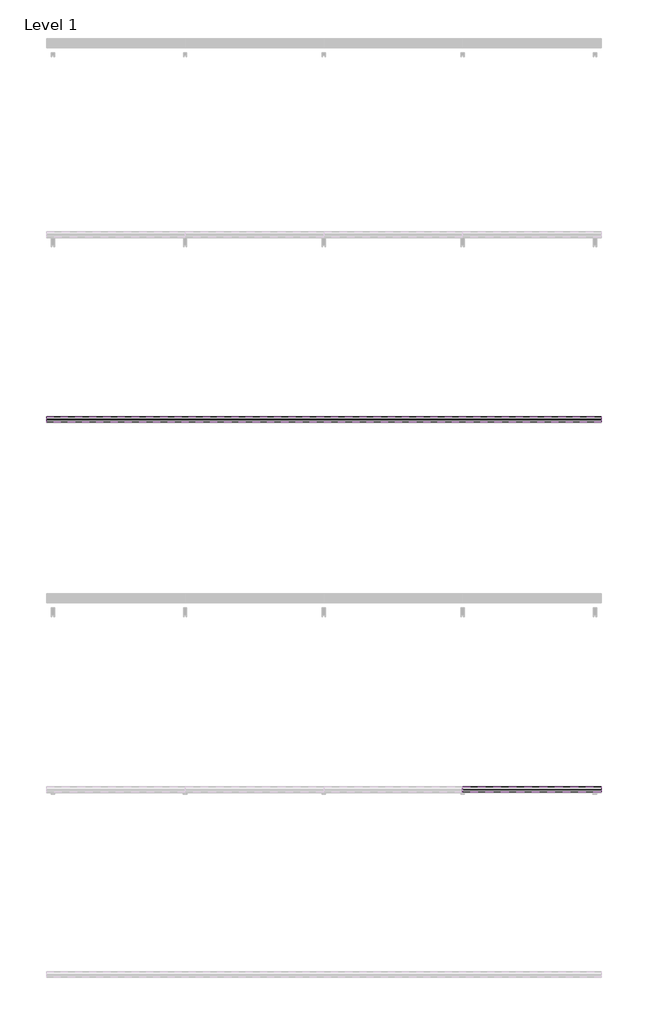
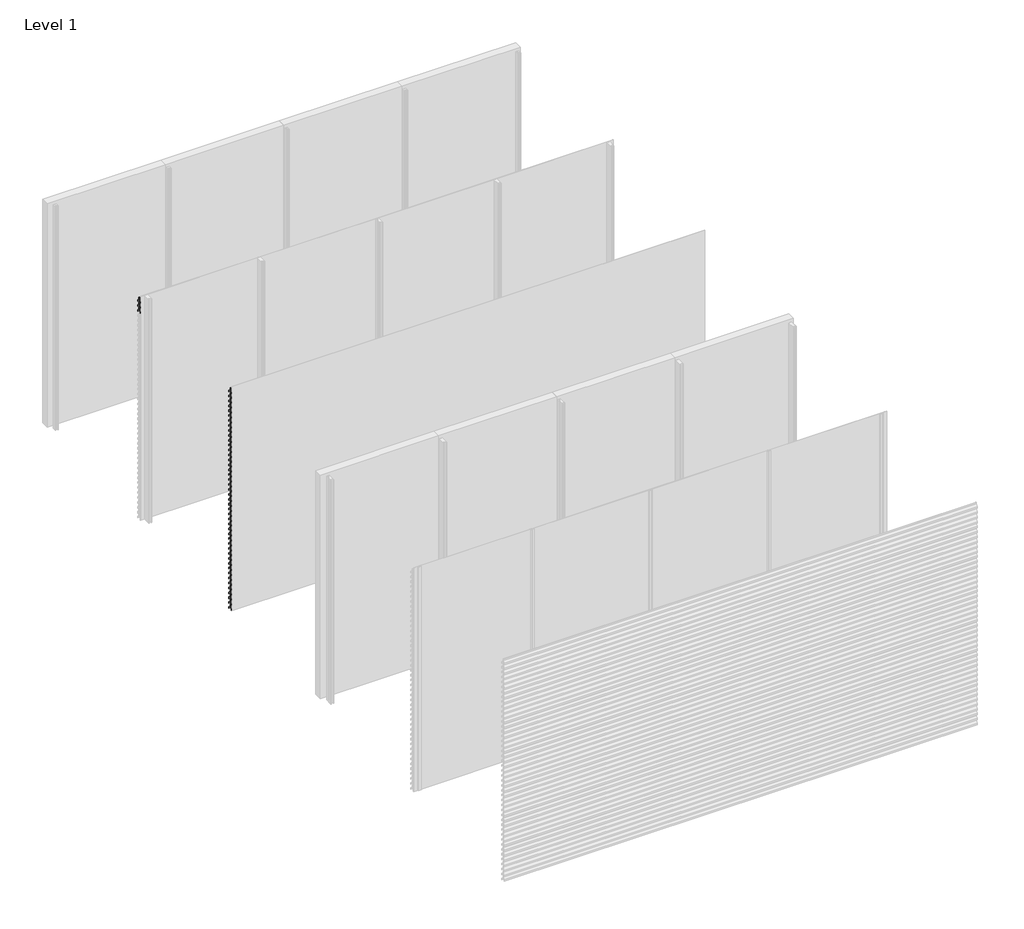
# One storey, part 22 of 35: 70 proxies.
"""IFC4 building model written with IfcOpenShell, lengths in millimetres."""

from ifc_helpers import new_model, si_unit, frame, origin, place, context, project, spatial, polyline, outline, extrude, element, save

model = new_model("IFC4")

# Units and contexts
model_context = context("Model", 3, world=origin())
ifc_project = project(units=[si_unit("LENGTHUNIT", "METRE", prefix="MILLI")], contexts=[model_context])

# Site, building, storey
site = spatial("IfcSite", under=ifc_project)
building = spatial("IfcBuilding", under=site)
storey = spatial("IfcBuildingStorey", under=building, Name="Level 1", Elevation=0.0)

# Proxies
placement = place(None, origin())
element("IfcBuildingElementProxy", 1, Name="Wall Sweeps", at=placement, inside=storey, context=model_context, shape_type="SweptSolid", body=[
    extrude(outline(polyline([(-17936.0, 2916.0), (-17936.0, 2896.0), (-17937.25, 2896.0), (-17937.25, 2915.4342979), (-17968.1138939, 2948.531772), (-17996.7, 2928.4392868), (-17996.7, 2909.6629874), (-17998.0, 2908.8506572), (-17998.0, 2929.1145472), (-17968.537525, 2949.823011), (-17968.537525, 2970.0), (-17967.1772624, 2970.0), (-17967.1772624, 2949.4335207), (-17936.0, 2916.0)])), frame((0.0, 0.0, 0.0), z_axis=(1.0, 0.0, 0.0), x_axis=(0.0, 1.0, 0.0)), (0.0, 0.0, 1.0), 1500.0),
])
element("IfcBuildingElementProxy", 2, Name="Wall Sweeps", at=placement, inside=storey, context=model_context, shape_type="SweptSolid", body=[
    extrude(outline(polyline([(-17936.0, 2850.0), (-17936.0, 2830.0), (-17937.25, 2830.0), (-17937.25, 2849.4342979), (-17968.1138939, 2882.531772), (-17996.7, 2862.4392868), (-17996.7, 2843.6629874), (-17998.0, 2842.8506572), (-17998.0, 2863.1145472), (-17968.537525, 2883.823011), (-17968.537525, 2904.0), (-17967.1772624, 2904.0), (-17967.1772624, 2883.4335207), (-17936.0, 2850.0)])), frame((0.0, 0.0, 0.0), z_axis=(1.0, 0.0, 0.0), x_axis=(0.0, 1.0, 0.0)), (0.0, 0.0, 1.0), 1500.0),
])
element("IfcBuildingElementProxy", 3, Name="Wall Sweeps", at=placement, inside=storey, context=model_context, shape_type="SweptSolid", body=[
    extrude(outline(polyline([(-17936.0, 2784.0), (-17936.0, 2764.0), (-17937.25, 2764.0), (-17937.25, 2783.4342979), (-17968.1138939, 2816.531772), (-17996.7, 2796.4392868), (-17996.7, 2777.6629874), (-17998.0, 2776.8506572), (-17998.0, 2797.1145472), (-17968.537525, 2817.823011), (-17968.537525, 2838.0), (-17967.1772624, 2838.0), (-17967.1772624, 2817.4335207), (-17936.0, 2784.0)])), frame((0.0, 0.0, 0.0), z_axis=(1.0, 0.0, 0.0), x_axis=(0.0, 1.0, 0.0)), (0.0, 0.0, 1.0), 1500.0),
])
element("IfcBuildingElementProxy", 4, Name="Wall Sweeps", at=placement, inside=storey, context=model_context, shape_type="SweptSolid", body=[
    extrude(outline(polyline([(-19936.0, 2916.0), (-19936.0, 2896.0), (-19937.25, 2896.0), (-19937.25, 2915.4342979), (-19968.1138939, 2948.531772), (-19996.7, 2928.4392868), (-19996.7, 2909.6629874), (-19998.0, 2908.8506572), (-19998.0, 2929.1145472), (-19968.537525, 2949.823011), (-19968.537525, 2970.0), (-19967.1772624, 2970.0), (-19967.1772624, 2949.4335207), (-19936.0, 2916.0)])), frame((0.0, 0.0, 0.0), z_axis=(1.0, 0.0, 0.0), x_axis=(0.0, 1.0, 0.0)), (0.0, 0.0, 1.0), 6000.0),
])
element("IfcBuildingElementProxy", 5, Name="Wall Sweeps", at=placement, inside=storey, context=model_context, shape_type="SweptSolid", body=[
    extrude(outline(polyline([(-19936.0, 2850.0), (-19936.0, 2830.0), (-19937.25, 2830.0), (-19937.25, 2849.4342979), (-19968.1138939, 2882.531772), (-19996.7, 2862.4392868), (-19996.7, 2843.6629874), (-19998.0, 2842.8506572), (-19998.0, 2863.1145472), (-19968.537525, 2883.823011), (-19968.537525, 2904.0), (-19967.1772624, 2904.0), (-19967.1772624, 2883.4335207), (-19936.0, 2850.0)])), frame((0.0, 0.0, 0.0), z_axis=(1.0, 0.0, 0.0), x_axis=(0.0, 1.0, 0.0)), (0.0, 0.0, 1.0), 6000.0),
])
element("IfcBuildingElementProxy", 6, Name="Wall Sweeps", at=placement, inside=storey, context=model_context, shape_type="SweptSolid", body=[
    extrude(outline(polyline([(-19936.0, 2784.0), (-19936.0, 2764.0), (-19937.25, 2764.0), (-19937.25, 2783.4342979), (-19968.1138939, 2816.531772), (-19996.7, 2796.4392868), (-19996.7, 2777.6629874), (-19998.0, 2776.8506572), (-19998.0, 2797.1145472), (-19968.537525, 2817.823011), (-19968.537525, 2838.0), (-19967.1772624, 2838.0), (-19967.1772624, 2817.4335207), (-19936.0, 2784.0)])), frame((0.0, 0.0, 0.0), z_axis=(1.0, 0.0, 0.0), x_axis=(0.0, 1.0, 0.0)), (0.0, 0.0, 1.0), 6000.0),
])
element("IfcBuildingElementProxy", 7, Name="Wall Sweeps", at=placement, inside=storey, context=model_context, shape_type="SweptSolid", body=[
    extrude(outline(polyline([(-19936.0, 2718.0), (-19936.0, 2698.0), (-19937.25, 2698.0), (-19937.25, 2717.4342979), (-19968.1138939, 2750.531772), (-19996.7, 2730.4392868), (-19996.7, 2711.6629874), (-19998.0, 2710.8506572), (-19998.0, 2731.1145472), (-19968.537525, 2751.823011), (-19968.537525, 2772.0), (-19967.1772624, 2772.0), (-19967.1772624, 2751.4335207), (-19936.0, 2718.0)])), frame((0.0, 0.0, 0.0), z_axis=(1.0, 0.0, 0.0), x_axis=(0.0, 1.0, 0.0)), (0.0, 0.0, 1.0), 6000.0),
])
element("IfcBuildingElementProxy", 8, Name="Wall Sweeps", at=placement, inside=storey, context=model_context, shape_type="SweptSolid", body=[
    extrude(outline(polyline([(-19936.0, 2652.0), (-19936.0, 2632.0), (-19937.25, 2632.0), (-19937.25, 2651.4342979), (-19968.1138939, 2684.531772), (-19996.7, 2664.4392868), (-19996.7, 2645.6629874), (-19998.0, 2644.8506572), (-19998.0, 2665.1145472), (-19968.537525, 2685.823011), (-19968.537525, 2706.0), (-19967.1772624, 2706.0), (-19967.1772624, 2685.4335207), (-19936.0, 2652.0)])), frame((0.0, 0.0, 0.0), z_axis=(1.0, 0.0, 0.0), x_axis=(0.0, 1.0, 0.0)), (0.0, 0.0, 1.0), 6000.0),
])
element("IfcBuildingElementProxy", 9, Name="Wall Sweeps", at=placement, inside=storey, context=model_context, shape_type="SweptSolid", body=[
    extrude(outline(polyline([(-19936.0, 2586.0), (-19936.0, 2566.0), (-19937.25, 2566.0), (-19937.25, 2585.4342979), (-19968.1138939, 2618.531772), (-19996.7, 2598.4392868), (-19996.7, 2579.6629874), (-19998.0, 2578.8506572), (-19998.0, 2599.1145472), (-19968.537525, 2619.823011), (-19968.537525, 2640.0), (-19967.1772624, 2640.0), (-19967.1772624, 2619.4335207), (-19936.0, 2586.0)])), frame((0.0, 0.0, 0.0), z_axis=(1.0, 0.0, 0.0), x_axis=(0.0, 1.0, 0.0)), (0.0, 0.0, 1.0), 6000.0),
])
element("IfcBuildingElementProxy", 10, Name="Wall Sweeps", at=placement, inside=storey, context=model_context, shape_type="SweptSolid", body=[
    extrude(outline(polyline([(-19936.0, 2520.0), (-19936.0, 2500.0), (-19937.25, 2500.0), (-19937.25, 2519.4342979), (-19968.1138939, 2552.531772), (-19996.7, 2532.4392868), (-19996.7, 2513.6629874), (-19998.0, 2512.8506572), (-19998.0, 2533.1145472), (-19968.537525, 2553.823011), (-19968.537525, 2574.0), (-19967.1772624, 2574.0), (-19967.1772624, 2553.4335207), (-19936.0, 2520.0)])), frame((0.0, 0.0, 0.0), z_axis=(1.0, 0.0, 0.0), x_axis=(0.0, 1.0, 0.0)), (0.0, 0.0, 1.0), 6000.0),
])
element("IfcBuildingElementProxy", 11, Name="Wall Sweeps", at=placement, inside=storey, context=model_context, shape_type="SweptSolid", body=[
    extrude(outline(polyline([(-19936.0, 2454.0), (-19936.0, 2434.0), (-19937.25, 2434.0), (-19937.25, 2453.4342979), (-19968.1138939, 2486.531772), (-19996.7, 2466.4392868), (-19996.7, 2447.6629874), (-19998.0, 2446.8506572), (-19998.0, 2467.1145472), (-19968.537525, 2487.823011), (-19968.537525, 2508.0), (-19967.1772624, 2508.0), (-19967.1772624, 2487.4335207), (-19936.0, 2454.0)])), frame((0.0, 0.0, 0.0), z_axis=(1.0, 0.0, 0.0), x_axis=(0.0, 1.0, 0.0)), (0.0, 0.0, 1.0), 6000.0),
])
element("IfcBuildingElementProxy", 12, Name="Wall Sweeps", at=placement, inside=storey, context=model_context, shape_type="SweptSolid", body=[
    extrude(outline(polyline([(-19936.0, 2388.0), (-19936.0, 2368.0), (-19937.25, 2368.0), (-19937.25, 2387.4342979), (-19968.1138939, 2420.531772), (-19996.7, 2400.4392868), (-19996.7, 2381.6629874), (-19998.0, 2380.8506572), (-19998.0, 2401.1145472), (-19968.537525, 2421.823011), (-19968.537525, 2442.0), (-19967.1772624, 2442.0), (-19967.1772624, 2421.4335207), (-19936.0, 2388.0)])), frame((0.0, 0.0, 0.0), z_axis=(1.0, 0.0, 0.0), x_axis=(0.0, 1.0, 0.0)), (0.0, 0.0, 1.0), 6000.0),
])
element("IfcBuildingElementProxy", 13, Name="Wall Sweeps", at=placement, inside=storey, context=model_context, shape_type="SweptSolid", body=[
    extrude(outline(polyline([(-19936.0, 2322.0), (-19936.0, 2302.0), (-19937.25, 2302.0), (-19937.25, 2321.4342979), (-19968.1138939, 2354.531772), (-19996.7, 2334.4392868), (-19996.7, 2315.6629874), (-19998.0, 2314.8506572), (-19998.0, 2335.1145472), (-19968.537525, 2355.823011), (-19968.537525, 2376.0), (-19967.1772624, 2376.0), (-19967.1772624, 2355.4335207), (-19936.0, 2322.0)])), frame((0.0, 0.0, 0.0), z_axis=(1.0, 0.0, 0.0), x_axis=(0.0, 1.0, 0.0)), (0.0, 0.0, 1.0), 6000.0),
])
element("IfcBuildingElementProxy", 14, Name="Wall Sweeps", at=placement, inside=storey, context=model_context, shape_type="SweptSolid", body=[
    extrude(outline(polyline([(-19936.0, 2256.0), (-19936.0, 2236.0), (-19937.25, 2236.0), (-19937.25, 2255.4342979), (-19968.1138939, 2288.531772), (-19996.7, 2268.4392868), (-19996.7, 2249.6629874), (-19998.0, 2248.8506572), (-19998.0, 2269.1145472), (-19968.537525, 2289.823011), (-19968.537525, 2310.0), (-19967.1772624, 2310.0), (-19967.1772624, 2289.4335207), (-19936.0, 2256.0)])), frame((0.0, 0.0, 0.0), z_axis=(1.0, 0.0, 0.0), x_axis=(0.0, 1.0, 0.0)), (0.0, 0.0, 1.0), 6000.0),
])
element("IfcBuildingElementProxy", 15, Name="Wall Sweeps", at=placement, inside=storey, context=model_context, shape_type="SweptSolid", body=[
    extrude(outline(polyline([(-19936.0, 2190.0), (-19936.0, 2170.0), (-19937.25, 2170.0), (-19937.25, 2189.4342979), (-19968.1138939, 2222.531772), (-19996.7, 2202.4392868), (-19996.7, 2183.6629874), (-19998.0, 2182.8506572), (-19998.0, 2203.1145472), (-19968.537525, 2223.823011), (-19968.537525, 2244.0), (-19967.1772624, 2244.0), (-19967.1772624, 2223.4335207), (-19936.0, 2190.0)])), frame((0.0, 0.0, 0.0), z_axis=(1.0, 0.0, 0.0), x_axis=(0.0, 1.0, 0.0)), (0.0, 0.0, 1.0), 6000.0),
])
element("IfcBuildingElementProxy", 16, Name="Wall Sweeps", at=placement, inside=storey, context=model_context, shape_type="SweptSolid", body=[
    extrude(outline(polyline([(-19936.0, 2124.0), (-19936.0, 2104.0), (-19937.25, 2104.0), (-19937.25, 2123.4342979), (-19968.1138939, 2156.531772), (-19996.7, 2136.4392868), (-19996.7, 2117.6629874), (-19998.0, 2116.8506572), (-19998.0, 2137.1145472), (-19968.537525, 2157.823011), (-19968.537525, 2178.0), (-19967.1772624, 2178.0), (-19967.1772624, 2157.4335207), (-19936.0, 2124.0)])), frame((0.0, 0.0, 0.0), z_axis=(1.0, 0.0, 0.0), x_axis=(0.0, 1.0, 0.0)), (0.0, 0.0, 1.0), 6000.0),
])
element("IfcBuildingElementProxy", 17, Name="Wall Sweeps", at=placement, inside=storey, context=model_context, shape_type="SweptSolid", body=[
    extrude(outline(polyline([(-19936.0, 2058.0), (-19936.0, 2038.0), (-19937.25, 2038.0), (-19937.25, 2057.4342979), (-19968.1138939, 2090.531772), (-19996.7, 2070.4392868), (-19996.7, 2051.6629874), (-19998.0, 2050.8506572), (-19998.0, 2071.1145472), (-19968.537525, 2091.823011), (-19968.537525, 2112.0), (-19967.1772624, 2112.0), (-19967.1772624, 2091.4335207), (-19936.0, 2058.0)])), frame((0.0, 0.0, 0.0), z_axis=(1.0, 0.0, 0.0), x_axis=(0.0, 1.0, 0.0)), (0.0, 0.0, 1.0), 6000.0),
])
element("IfcBuildingElementProxy", 18, Name="Wall Sweeps", at=placement, inside=storey, context=model_context, shape_type="SweptSolid", body=[
    extrude(outline(polyline([(-19936.0, 1992.0), (-19936.0, 1972.0), (-19937.25, 1972.0), (-19937.25, 1991.4342979), (-19968.1138939, 2024.531772), (-19996.7, 2004.4392868), (-19996.7, 1985.6629874), (-19998.0, 1984.8506572), (-19998.0, 2005.1145472), (-19968.537525, 2025.823011), (-19968.537525, 2046.0), (-19967.1772624, 2046.0), (-19967.1772624, 2025.4335207), (-19936.0, 1992.0)])), frame((0.0, 0.0, 0.0), z_axis=(1.0, 0.0, 0.0), x_axis=(0.0, 1.0, 0.0)), (0.0, 0.0, 1.0), 6000.0),
])
element("IfcBuildingElementProxy", 19, Name="Wall Sweeps", at=placement, inside=storey, context=model_context, shape_type="SweptSolid", body=[
    extrude(outline(polyline([(-19936.0, 1926.0), (-19936.0, 1906.0), (-19937.25, 1906.0), (-19937.25, 1925.4342979), (-19968.1138939, 1958.531772), (-19996.7, 1938.4392868), (-19996.7, 1919.6629874), (-19998.0, 1918.8506572), (-19998.0, 1939.1145472), (-19968.537525, 1959.823011), (-19968.537525, 1980.0), (-19967.1772624, 1980.0), (-19967.1772624, 1959.4335207), (-19936.0, 1926.0)])), frame((0.0, 0.0, 0.0), z_axis=(1.0, 0.0, 0.0), x_axis=(0.0, 1.0, 0.0)), (0.0, 0.0, 1.0), 6000.0),
])
element("IfcBuildingElementProxy", 20, Name="Wall Sweeps", at=placement, inside=storey, context=model_context, shape_type="SweptSolid", body=[
    extrude(outline(polyline([(-19936.0, 1860.0), (-19936.0, 1840.0), (-19937.25, 1840.0), (-19937.25, 1859.4342979), (-19968.1138939, 1892.531772), (-19996.7, 1872.4392868), (-19996.7, 1853.6629874), (-19998.0, 1852.8506572), (-19998.0, 1873.1145472), (-19968.537525, 1893.823011), (-19968.537525, 1914.0), (-19967.1772624, 1914.0), (-19967.1772624, 1893.4335207), (-19936.0, 1860.0)])), frame((0.0, 0.0, 0.0), z_axis=(1.0, 0.0, 0.0), x_axis=(0.0, 1.0, 0.0)), (0.0, 0.0, 1.0), 6000.0),
])
element("IfcBuildingElementProxy", 21, Name="Wall Sweeps", at=placement, inside=storey, context=model_context, shape_type="SweptSolid", body=[
    extrude(outline(polyline([(-19936.0, 1794.0), (-19936.0, 1774.0), (-19937.25, 1774.0), (-19937.25, 1793.4342979), (-19968.1138939, 1826.531772), (-19996.7, 1806.4392868), (-19996.7, 1787.6629874), (-19998.0, 1786.8506572), (-19998.0, 1807.1145472), (-19968.537525, 1827.823011), (-19968.537525, 1848.0), (-19967.1772624, 1848.0), (-19967.1772624, 1827.4335207), (-19936.0, 1794.0)])), frame((0.0, 0.0, 0.0), z_axis=(1.0, 0.0, 0.0), x_axis=(0.0, 1.0, 0.0)), (0.0, 0.0, 1.0), 6000.0),
])
element("IfcBuildingElementProxy", 22, Name="Wall Sweeps", at=placement, inside=storey, context=model_context, shape_type="SweptSolid", body=[
    extrude(outline(polyline([(-19936.0, 1728.0), (-19936.0, 1708.0), (-19937.25, 1708.0), (-19937.25, 1727.4342979), (-19968.1138939, 1760.531772), (-19996.7, 1740.4392868), (-19996.7, 1721.6629874), (-19998.0, 1720.8506572), (-19998.0, 1741.1145472), (-19968.537525, 1761.823011), (-19968.537525, 1782.0), (-19967.1772624, 1782.0), (-19967.1772624, 1761.4335207), (-19936.0, 1728.0)])), frame((0.0, 0.0, 0.0), z_axis=(1.0, 0.0, 0.0), x_axis=(0.0, 1.0, 0.0)), (0.0, 0.0, 1.0), 6000.0),
])
element("IfcBuildingElementProxy", 23, Name="Wall Sweeps", at=placement, inside=storey, context=model_context, shape_type="SweptSolid", body=[
    extrude(outline(polyline([(-19936.0, 1662.0), (-19936.0, 1642.0), (-19937.25, 1642.0), (-19937.25, 1661.4342979), (-19968.1138939, 1694.531772), (-19996.7, 1674.4392868), (-19996.7, 1655.6629874), (-19998.0, 1654.8506572), (-19998.0, 1675.1145472), (-19968.537525, 1695.823011), (-19968.537525, 1716.0), (-19967.1772624, 1716.0), (-19967.1772624, 1695.4335207), (-19936.0, 1662.0)])), frame((0.0, 0.0, 0.0), z_axis=(1.0, 0.0, 0.0), x_axis=(0.0, 1.0, 0.0)), (0.0, 0.0, 1.0), 6000.0),
])
element("IfcBuildingElementProxy", 24, Name="Wall Sweeps", at=placement, inside=storey, context=model_context, shape_type="SweptSolid", body=[
    extrude(outline(polyline([(-19936.0, 1596.0), (-19936.0, 1576.0), (-19937.25, 1576.0), (-19937.25, 1595.4342979), (-19968.1138939, 1628.531772), (-19996.7, 1608.4392868), (-19996.7, 1589.6629874), (-19998.0, 1588.8506572), (-19998.0, 1609.1145472), (-19968.537525, 1629.823011), (-19968.537525, 1650.0), (-19967.1772624, 1650.0), (-19967.1772624, 1629.4335207), (-19936.0, 1596.0)])), frame((0.0, 0.0, 0.0), z_axis=(1.0, 0.0, 0.0), x_axis=(0.0, 1.0, 0.0)), (0.0, 0.0, 1.0), 6000.0),
])
element("IfcBuildingElementProxy", 25, Name="Wall Sweeps", at=placement, inside=storey, context=model_context, shape_type="SweptSolid", body=[
    extrude(outline(polyline([(-19936.0, 1530.0), (-19936.0, 1510.0), (-19937.25, 1510.0), (-19937.25, 1529.4342979), (-19968.1138939, 1562.531772), (-19996.7, 1542.4392868), (-19996.7, 1523.6629874), (-19998.0, 1522.8506572), (-19998.0, 1543.1145472), (-19968.537525, 1563.823011), (-19968.537525, 1584.0), (-19967.1772624, 1584.0), (-19967.1772624, 1563.4335207), (-19936.0, 1530.0)])), frame((0.0, 0.0, 0.0), z_axis=(1.0, 0.0, 0.0), x_axis=(0.0, 1.0, 0.0)), (0.0, 0.0, 1.0), 6000.0),
])
element("IfcBuildingElementProxy", 26, Name="Wall Sweeps", at=placement, inside=storey, context=model_context, shape_type="SweptSolid", body=[
    extrude(outline(polyline([(-19936.0, 1464.0), (-19936.0, 1444.0), (-19937.25, 1444.0), (-19937.25, 1463.4342979), (-19968.1138939, 1496.531772), (-19996.7, 1476.4392868), (-19996.7, 1457.6629874), (-19998.0, 1456.8506572), (-19998.0, 1477.1145472), (-19968.537525, 1497.823011), (-19968.537525, 1518.0), (-19967.1772624, 1518.0), (-19967.1772624, 1497.4335207), (-19936.0, 1464.0)])), frame((0.0, 0.0, 0.0), z_axis=(1.0, 0.0, 0.0), x_axis=(0.0, 1.0, 0.0)), (0.0, 0.0, 1.0), 6000.0),
])
element("IfcBuildingElementProxy", 27, Name="Wall Sweeps", at=placement, inside=storey, context=model_context, shape_type="SweptSolid", body=[
    extrude(outline(polyline([(-19936.0, 1398.0), (-19936.0, 1378.0), (-19937.25, 1378.0), (-19937.25, 1397.4342979), (-19968.1138939, 1430.531772), (-19996.7, 1410.4392868), (-19996.7, 1391.6629874), (-19998.0, 1390.8506572), (-19998.0, 1411.1145472), (-19968.537525, 1431.823011), (-19968.537525, 1452.0), (-19967.1772624, 1452.0), (-19967.1772624, 1431.4335207), (-19936.0, 1398.0)])), frame((0.0, 0.0, 0.0), z_axis=(1.0, 0.0, 0.0), x_axis=(0.0, 1.0, 0.0)), (0.0, 0.0, 1.0), 6000.0),
])
element("IfcBuildingElementProxy", 28, Name="Wall Sweeps", at=placement, inside=storey, context=model_context, shape_type="SweptSolid", body=[
    extrude(outline(polyline([(-19936.0, 1332.0), (-19936.0, 1312.0), (-19937.25, 1312.0), (-19937.25, 1331.4342979), (-19968.1138939, 1364.531772), (-19996.7, 1344.4392868), (-19996.7, 1325.6629874), (-19998.0, 1324.8506572), (-19998.0, 1345.1145472), (-19968.537525, 1365.823011), (-19968.537525, 1386.0), (-19967.1772624, 1386.0), (-19967.1772624, 1365.4335207), (-19936.0, 1332.0)])), frame((0.0, 0.0, 0.0), z_axis=(1.0, 0.0, 0.0), x_axis=(0.0, 1.0, 0.0)), (0.0, 0.0, 1.0), 6000.0),
])
element("IfcBuildingElementProxy", 29, Name="Wall Sweeps", at=placement, inside=storey, context=model_context, shape_type="SweptSolid", body=[
    extrude(outline(polyline([(-19936.0, 1266.0), (-19936.0, 1246.0), (-19937.25, 1246.0), (-19937.25, 1265.4342979), (-19968.1138939, 1298.531772), (-19996.7, 1278.4392868), (-19996.7, 1259.6629874), (-19998.0, 1258.8506572), (-19998.0, 1279.1145472), (-19968.537525, 1299.823011), (-19968.537525, 1320.0), (-19967.1772624, 1320.0), (-19967.1772624, 1299.4335207), (-19936.0, 1266.0)])), frame((0.0, 0.0, 0.0), z_axis=(1.0, 0.0, 0.0), x_axis=(0.0, 1.0, 0.0)), (0.0, 0.0, 1.0), 6000.0),
])
element("IfcBuildingElementProxy", 30, Name="Wall Sweeps", at=placement, inside=storey, context=model_context, shape_type="SweptSolid", body=[
    extrude(outline(polyline([(-19936.0, 1200.0), (-19936.0, 1180.0), (-19937.25, 1180.0), (-19937.25, 1199.4342979), (-19968.1138939, 1232.531772), (-19996.7, 1212.4392868), (-19996.7, 1193.6629874), (-19998.0, 1192.8506572), (-19998.0, 1213.1145472), (-19968.537525, 1233.823011), (-19968.537525, 1254.0), (-19967.1772624, 1254.0), (-19967.1772624, 1233.4335207), (-19936.0, 1200.0)])), frame((0.0, 0.0, 0.0), z_axis=(1.0, 0.0, 0.0), x_axis=(0.0, 1.0, 0.0)), (0.0, 0.0, 1.0), 6000.0),
])
element("IfcBuildingElementProxy", 31, Name="Wall Sweeps", at=placement, inside=storey, context=model_context, shape_type="SweptSolid", body=[
    extrude(outline(polyline([(-19936.0, 1134.0), (-19936.0, 1114.0), (-19937.25, 1114.0), (-19937.25, 1133.4342979), (-19968.1138939, 1166.531772), (-19996.7, 1146.4392868), (-19996.7, 1127.6629874), (-19998.0, 1126.8506572), (-19998.0, 1147.1145472), (-19968.537525, 1167.823011), (-19968.537525, 1188.0), (-19967.1772624, 1188.0), (-19967.1772624, 1167.4335207), (-19936.0, 1134.0)])), frame((0.0, 0.0, 0.0), z_axis=(1.0, 0.0, 0.0), x_axis=(0.0, 1.0, 0.0)), (0.0, 0.0, 1.0), 6000.0),
])
element("IfcBuildingElementProxy", 32, Name="Wall Sweeps", at=placement, inside=storey, context=model_context, shape_type="SweptSolid", body=[
    extrude(outline(polyline([(-19936.0, 1068.0), (-19936.0, 1048.0), (-19937.25, 1048.0), (-19937.25, 1067.4342979), (-19968.1138939, 1100.531772), (-19996.7, 1080.4392868), (-19996.7, 1061.6629874), (-19998.0, 1060.8506572), (-19998.0, 1081.1145472), (-19968.537525, 1101.823011), (-19968.537525, 1122.0), (-19967.1772624, 1122.0), (-19967.1772624, 1101.4335207), (-19936.0, 1068.0)])), frame((0.0, 0.0, 0.0), z_axis=(1.0, 0.0, 0.0), x_axis=(0.0, 1.0, 0.0)), (0.0, 0.0, 1.0), 6000.0),
])
element("IfcBuildingElementProxy", 33, Name="Wall Sweeps", at=placement, inside=storey, context=model_context, shape_type="SweptSolid", body=[
    extrude(outline(polyline([(-19936.0, 1002.0), (-19936.0, 982.0), (-19937.25, 982.0), (-19937.25, 1001.4342979), (-19968.1138939, 1034.531772), (-19996.7, 1014.4392868), (-19996.7, 995.6629874), (-19998.0, 994.8506572), (-19998.0, 1015.1145472), (-19968.537525, 1035.823011), (-19968.537525, 1056.0), (-19967.1772624, 1056.0), (-19967.1772624, 1035.4335207), (-19936.0, 1002.0)])), frame((0.0, 0.0, 0.0), z_axis=(1.0, 0.0, 0.0), x_axis=(0.0, 1.0, 0.0)), (0.0, 0.0, 1.0), 6000.0),
])
element("IfcBuildingElementProxy", 34, Name="Wall Sweeps", at=placement, inside=storey, context=model_context, shape_type="SweptSolid", body=[
    extrude(outline(polyline([(-19936.0, 936.0), (-19936.0, 916.0), (-19937.25, 916.0), (-19937.25, 935.4342979), (-19968.1138939, 968.531772), (-19996.7, 948.4392868), (-19996.7, 929.6629874), (-19998.0, 928.8506572), (-19998.0, 949.1145472), (-19968.537525, 969.823011), (-19968.537525, 990.0), (-19967.1772624, 990.0), (-19967.1772624, 969.4335207), (-19936.0, 936.0)])), frame((0.0, 0.0, 0.0), z_axis=(1.0, 0.0, 0.0), x_axis=(0.0, 1.0, 0.0)), (0.0, 0.0, 1.0), 6000.0),
])
element("IfcBuildingElementProxy", 35, Name="Wall Sweeps", at=placement, inside=storey, context=model_context, shape_type="SweptSolid", body=[
    extrude(outline(polyline([(-19936.0, 870.0), (-19936.0, 850.0), (-19937.25, 850.0), (-19937.25, 869.4342979), (-19968.1138939, 902.531772), (-19996.7, 882.4392868), (-19996.7, 863.6629874), (-19998.0, 862.8506572), (-19998.0, 883.1145472), (-19968.537525, 903.823011), (-19968.537525, 924.0), (-19967.1772624, 924.0), (-19967.1772624, 903.4335207), (-19936.0, 870.0)])), frame((0.0, 0.0, 0.0), z_axis=(1.0, 0.0, 0.0), x_axis=(0.0, 1.0, 0.0)), (0.0, 0.0, 1.0), 6000.0),
])
element("IfcBuildingElementProxy", 36, Name="Wall Sweeps", at=placement, inside=storey, context=model_context, shape_type="SweptSolid", body=[
    extrude(outline(polyline([(-19936.0, 804.0), (-19936.0, 784.0), (-19937.25, 784.0), (-19937.25, 803.4342979), (-19968.1138939, 836.531772), (-19996.7, 816.4392868), (-19996.7, 797.6629874), (-19998.0, 796.8506572), (-19998.0, 817.1145472), (-19968.537525, 837.823011), (-19968.537525, 858.0), (-19967.1772624, 858.0), (-19967.1772624, 837.4335207), (-19936.0, 804.0)])), frame((0.0, 0.0, 0.0), z_axis=(1.0, 0.0, 0.0), x_axis=(0.0, 1.0, 0.0)), (0.0, 0.0, 1.0), 6000.0),
])
element("IfcBuildingElementProxy", 37, Name="Wall Sweeps", at=placement, inside=storey, context=model_context, shape_type="SweptSolid", body=[
    extrude(outline(polyline([(-19936.0, 738.0), (-19936.0, 718.0), (-19937.25, 718.0), (-19937.25, 737.4342979), (-19968.1138939, 770.531772), (-19996.7, 750.4392868), (-19996.7, 731.6629874), (-19998.0, 730.8506572), (-19998.0, 751.1145472), (-19968.537525, 771.823011), (-19968.537525, 792.0), (-19967.1772624, 792.0), (-19967.1772624, 771.4335207), (-19936.0, 738.0)])), frame((0.0, 0.0, 0.0), z_axis=(1.0, 0.0, 0.0), x_axis=(0.0, 1.0, 0.0)), (0.0, 0.0, 1.0), 6000.0),
])
element("IfcBuildingElementProxy", 38, Name="Wall Sweeps", at=placement, inside=storey, context=model_context, shape_type="SweptSolid", body=[
    extrude(outline(polyline([(-19936.0, 672.0), (-19936.0, 652.0), (-19937.25, 652.0), (-19937.25, 671.4342979), (-19968.1138939, 704.531772), (-19996.7, 684.4392868), (-19996.7, 665.6629874), (-19998.0, 664.8506572), (-19998.0, 685.1145472), (-19968.537525, 705.823011), (-19968.537525, 726.0), (-19967.1772624, 726.0), (-19967.1772624, 705.4335207), (-19936.0, 672.0)])), frame((0.0, 0.0, 0.0), z_axis=(1.0, 0.0, 0.0), x_axis=(0.0, 1.0, 0.0)), (0.0, 0.0, 1.0), 6000.0),
])
element("IfcBuildingElementProxy", 39, Name="Wall Sweeps", at=placement, inside=storey, context=model_context, shape_type="SweptSolid", body=[
    extrude(outline(polyline([(-19936.0, 606.0), (-19936.0, 586.0), (-19937.25, 586.0), (-19937.25, 605.4342979), (-19968.1138939, 638.531772), (-19996.7, 618.4392868), (-19996.7, 599.6629874), (-19998.0, 598.8506572), (-19998.0, 619.1145472), (-19968.537525, 639.823011), (-19968.537525, 660.0), (-19967.1772624, 660.0), (-19967.1772624, 639.4335207), (-19936.0, 606.0)])), frame((0.0, 0.0, 0.0), z_axis=(1.0, 0.0, 0.0), x_axis=(0.0, 1.0, 0.0)), (0.0, 0.0, 1.0), 6000.0),
])
element("IfcBuildingElementProxy", 40, Name="Wall Sweeps", at=placement, inside=storey, context=model_context, shape_type="SweptSolid", body=[
    extrude(outline(polyline([(-19936.0, 540.0), (-19936.0, 520.0), (-19937.25, 520.0), (-19937.25, 539.4342979), (-19968.1138939, 572.531772), (-19996.7, 552.4392868), (-19996.7, 533.6629874), (-19998.0, 532.8506572), (-19998.0, 553.1145472), (-19968.537525, 573.823011), (-19968.537525, 594.0), (-19967.1772624, 594.0), (-19967.1772624, 573.4335207), (-19936.0, 540.0)])), frame((0.0, 0.0, 0.0), z_axis=(1.0, 0.0, 0.0), x_axis=(0.0, 1.0, 0.0)), (0.0, 0.0, 1.0), 6000.0),
])
element("IfcBuildingElementProxy", 41, Name="Wall Sweeps", at=placement, inside=storey, context=model_context, shape_type="SweptSolid", body=[
    extrude(outline(polyline([(-19936.0, 474.0), (-19936.0, 454.0), (-19937.25, 454.0), (-19937.25, 473.4342979), (-19968.1138939, 506.531772), (-19996.7, 486.4392868), (-19996.7, 467.6629874), (-19998.0, 466.8506572), (-19998.0, 487.1145472), (-19968.537525, 507.823011), (-19968.537525, 528.0), (-19967.1772624, 528.0), (-19967.1772624, 507.4335207), (-19936.0, 474.0)])), frame((0.0, 0.0, 0.0), z_axis=(1.0, 0.0, 0.0), x_axis=(0.0, 1.0, 0.0)), (0.0, 0.0, 1.0), 6000.0),
])
element("IfcBuildingElementProxy", 42, Name="Wall Sweeps", at=placement, inside=storey, context=model_context, shape_type="SweptSolid", body=[
    extrude(outline(polyline([(-19936.0, 408.0), (-19936.0, 388.0), (-19937.25, 388.0), (-19937.25, 407.4342979), (-19968.1138939, 440.531772), (-19996.7, 420.4392868), (-19996.7, 401.6629874), (-19998.0, 400.8506572), (-19998.0, 421.1145472), (-19968.537525, 441.823011), (-19968.537525, 462.0), (-19967.1772624, 462.0), (-19967.1772624, 441.4335207), (-19936.0, 408.0)])), frame((0.0, 0.0, 0.0), z_axis=(1.0, 0.0, 0.0), x_axis=(0.0, 1.0, 0.0)), (0.0, 0.0, 1.0), 6000.0),
])
element("IfcBuildingElementProxy", 43, Name="Wall Sweeps", at=placement, inside=storey, context=model_context, shape_type="SweptSolid", body=[
    extrude(outline(polyline([(-19936.0, 342.0), (-19936.0, 322.0), (-19937.25, 322.0), (-19937.25, 341.4342979), (-19968.1138939, 374.531772), (-19996.7, 354.4392868), (-19996.7, 335.6629874), (-19998.0, 334.8506572), (-19998.0, 355.1145472), (-19968.537525, 375.823011), (-19968.537525, 396.0), (-19967.1772624, 396.0), (-19967.1772624, 375.4335207), (-19936.0, 342.0)])), frame((0.0, 0.0, 0.0), z_axis=(1.0, 0.0, 0.0), x_axis=(0.0, 1.0, 0.0)), (0.0, 0.0, 1.0), 6000.0),
])
element("IfcBuildingElementProxy", 44, Name="Wall Sweeps", at=placement, inside=storey, context=model_context, shape_type="SweptSolid", body=[
    extrude(outline(polyline([(-19936.0, 276.0), (-19936.0, 256.0), (-19937.25, 256.0), (-19937.25, 275.4342979), (-19968.1138939, 308.531772), (-19996.7, 288.4392868), (-19996.7, 269.6629874), (-19998.0, 268.8506572), (-19998.0, 289.1145472), (-19968.537525, 309.823011), (-19968.537525, 330.0), (-19967.1772624, 330.0), (-19967.1772624, 309.4335207), (-19936.0, 276.0)])), frame((0.0, 0.0, 0.0), z_axis=(1.0, 0.0, 0.0), x_axis=(0.0, 1.0, 0.0)), (0.0, 0.0, 1.0), 6000.0),
])
element("IfcBuildingElementProxy", 45, Name="Wall Sweeps", at=placement, inside=storey, context=model_context, shape_type="SweptSolid", body=[
    extrude(outline(polyline([(-19936.0, 210.0), (-19936.0, 190.0), (-19937.25, 190.0), (-19937.25, 209.4342979), (-19968.1138939, 242.531772), (-19996.7, 222.4392868), (-19996.7, 203.6629874), (-19998.0, 202.8506572), (-19998.0, 223.1145472), (-19968.537525, 243.823011), (-19968.537525, 264.0), (-19967.1772624, 264.0), (-19967.1772624, 243.4335207), (-19936.0, 210.0)])), frame((0.0, 0.0, 0.0), z_axis=(1.0, 0.0, 0.0), x_axis=(0.0, 1.0, 0.0)), (0.0, 0.0, 1.0), 6000.0),
])
element("IfcBuildingElementProxy", 46, Name="Wall Sweeps", at=placement, inside=storey, context=model_context, shape_type="SweptSolid", body=[
    extrude(outline(polyline([(-19936.0, 144.0), (-19936.0, 124.0), (-19937.25, 124.0), (-19937.25, 143.4342979), (-19968.1138939, 176.531772), (-19996.7, 156.4392868), (-19996.7, 137.6629874), (-19998.0, 136.8506572), (-19998.0, 157.1145472), (-19968.537525, 177.823011), (-19968.537525, 198.0), (-19967.1772624, 198.0), (-19967.1772624, 177.4335207), (-19936.0, 144.0)])), frame((0.0, 0.0, 0.0), z_axis=(1.0, 0.0, 0.0), x_axis=(0.0, 1.0, 0.0)), (0.0, 0.0, 1.0), 6000.0),
])
element("IfcBuildingElementProxy", 47, Name="Wall Sweeps", at=placement, inside=storey, context=model_context, shape_type="SweptSolid", body=[
    extrude(outline(polyline([(-19936.0, 78.0), (-19936.0, 58.0), (-19937.25, 58.0), (-19937.25, 77.4342979), (-19968.1138939, 110.531772), (-19996.7, 90.4392868), (-19996.7, 71.6629874), (-19998.0, 70.8506572), (-19998.0, 91.1145472), (-19968.537525, 111.823011), (-19968.537525, 132.0), (-19967.1772624, 132.0), (-19967.1772624, 111.4335207), (-19936.0, 78.0)])), frame((0.0, 0.0, 0.0), z_axis=(1.0, 0.0, 0.0), x_axis=(0.0, 1.0, 0.0)), (0.0, 0.0, 1.0), 6000.0),
])
element("IfcBuildingElementProxy", 48, Name="Wall Sweeps", at=placement, inside=storey, context=model_context, shape_type="SweptSolid", body=[
    extrude(outline(polyline([(-19936.0, 12.0), (-19936.0, -8.0), (-19937.25, -8.0), (-19937.25, 11.4342979), (-19968.1138939, 44.531772), (-19996.7, 24.4392868), (-19996.7, 5.6629874), (-19998.0, 4.8506572), (-19998.0, 25.1145472), (-19968.537525, 45.823011), (-19968.537525, 66.0), (-19967.1772624, 66.0), (-19967.1772624, 45.4335207), (-19936.0, 12.0)])), frame((0.0, 0.0, 0.0), z_axis=(1.0, 0.0, 0.0), x_axis=(0.0, 1.0, 0.0)), (0.0, 0.0, 1.0), 6000.0),
])
element("IfcBuildingElementProxy", 49, Name="Wall Sweeps", at=placement, inside=storey, context=model_context, shape_type="SweptSolid", body=[
    extrude(outline(polyline([(-23936.0, 1398.0), (-23936.0, 1378.0), (-23937.25, 1378.0), (-23937.25, 1397.4342979), (-23968.1138939, 1430.531772), (-23996.7, 1410.4392868), (-23996.7, 1391.6629874), (-23998.0, 1390.8506572), (-23998.0, 1411.1145472), (-23968.537525, 1431.823011), (-23968.537525, 1452.0), (-23967.1772624, 1452.0), (-23967.1772624, 1431.4335207), (-23936.0, 1398.0)])), frame((4500.0, 0.0, 0.0), z_axis=(1.0, 0.0, 0.0), x_axis=(0.0, 1.0, 0.0)), (0.0, 0.0, 1.0), 1500.0),
])
element("IfcBuildingElementProxy", 50, Name="Wall Sweeps", at=placement, inside=storey, context=model_context, shape_type="SweptSolid", body=[
    extrude(outline(polyline([(-23936.0, 1332.0), (-23936.0, 1312.0), (-23937.25, 1312.0), (-23937.25, 1331.4342979), (-23968.1138939, 1364.531772), (-23996.7, 1344.4392868), (-23996.7, 1325.6629874), (-23998.0, 1324.8506572), (-23998.0, 1345.1145472), (-23968.537525, 1365.823011), (-23968.537525, 1386.0), (-23967.1772624, 1386.0), (-23967.1772624, 1365.4335207), (-23936.0, 1332.0)])), frame((4500.0, 0.0, 0.0), z_axis=(1.0, 0.0, 0.0), x_axis=(0.0, 1.0, 0.0)), (0.0, 0.0, 1.0), 1500.0),
])
element("IfcBuildingElementProxy", 51, Name="Wall Sweeps", at=placement, inside=storey, context=model_context, shape_type="SweptSolid", body=[
    extrude(outline(polyline([(-23936.0, 1266.0), (-23936.0, 1246.0), (-23937.25, 1246.0), (-23937.25, 1265.4342979), (-23968.1138939, 1298.531772), (-23996.7, 1278.4392868), (-23996.7, 1259.6629874), (-23998.0, 1258.8506572), (-23998.0, 1279.1145472), (-23968.537525, 1299.823011), (-23968.537525, 1320.0), (-23967.1772624, 1320.0), (-23967.1772624, 1299.4335207), (-23936.0, 1266.0)])), frame((4500.0, 0.0, 0.0), z_axis=(1.0, 0.0, 0.0), x_axis=(0.0, 1.0, 0.0)), (0.0, 0.0, 1.0), 1500.0),
])
element("IfcBuildingElementProxy", 52, Name="Wall Sweeps", at=placement, inside=storey, context=model_context, shape_type="SweptSolid", body=[
    extrude(outline(polyline([(-23936.0, 1200.0), (-23936.0, 1180.0), (-23937.25, 1180.0), (-23937.25, 1199.4342979), (-23968.1138939, 1232.531772), (-23996.7, 1212.4392868), (-23996.7, 1193.6629874), (-23998.0, 1192.8506572), (-23998.0, 1213.1145472), (-23968.537525, 1233.823011), (-23968.537525, 1254.0), (-23967.1772624, 1254.0), (-23967.1772624, 1233.4335207), (-23936.0, 1200.0)])), frame((4500.0, 0.0, 0.0), z_axis=(1.0, 0.0, 0.0), x_axis=(0.0, 1.0, 0.0)), (0.0, 0.0, 1.0), 1500.0),
])
element("IfcBuildingElementProxy", 53, Name="Wall Sweeps", at=placement, inside=storey, context=model_context, shape_type="SweptSolid", body=[
    extrude(outline(polyline([(-23936.0, 1134.0), (-23936.0, 1114.0), (-23937.25, 1114.0), (-23937.25, 1133.4342979), (-23968.1138939, 1166.531772), (-23996.7, 1146.4392868), (-23996.7, 1127.6629874), (-23998.0, 1126.8506572), (-23998.0, 1147.1145472), (-23968.537525, 1167.823011), (-23968.537525, 1188.0), (-23967.1772624, 1188.0), (-23967.1772624, 1167.4335207), (-23936.0, 1134.0)])), frame((4500.0, 0.0, 0.0), z_axis=(1.0, 0.0, 0.0), x_axis=(0.0, 1.0, 0.0)), (0.0, 0.0, 1.0), 1500.0),
])
element("IfcBuildingElementProxy", 54, Name="Wall Sweeps", at=placement, inside=storey, context=model_context, shape_type="SweptSolid", body=[
    extrude(outline(polyline([(-23936.0, 1068.0), (-23936.0, 1048.0), (-23937.25, 1048.0), (-23937.25, 1067.4342979), (-23968.1138939, 1100.531772), (-23996.7, 1080.4392868), (-23996.7, 1061.6629874), (-23998.0, 1060.8506572), (-23998.0, 1081.1145472), (-23968.537525, 1101.823011), (-23968.537525, 1122.0), (-23967.1772624, 1122.0), (-23967.1772624, 1101.4335207), (-23936.0, 1068.0)])), frame((4500.0, 0.0, 0.0), z_axis=(1.0, 0.0, 0.0), x_axis=(0.0, 1.0, 0.0)), (0.0, 0.0, 1.0), 1500.0),
])
element("IfcBuildingElementProxy", 55, Name="Wall Sweeps", at=placement, inside=storey, context=model_context, shape_type="SweptSolid", body=[
    extrude(outline(polyline([(-23936.0, 1002.0), (-23936.0, 982.0), (-23937.25, 982.0), (-23937.25, 1001.4342979), (-23968.1138939, 1034.531772), (-23996.7, 1014.4392868), (-23996.7, 995.6629874), (-23998.0, 994.8506572), (-23998.0, 1015.1145472), (-23968.537525, 1035.823011), (-23968.537525, 1056.0), (-23967.1772624, 1056.0), (-23967.1772624, 1035.4335207), (-23936.0, 1002.0)])), frame((4500.0, 0.0, 0.0), z_axis=(1.0, 0.0, 0.0), x_axis=(0.0, 1.0, 0.0)), (0.0, 0.0, 1.0), 1500.0),
])
element("IfcBuildingElementProxy", 56, Name="Wall Sweeps", at=placement, inside=storey, context=model_context, shape_type="SweptSolid", body=[
    extrude(outline(polyline([(-23936.0, 936.0), (-23936.0, 916.0), (-23937.25, 916.0), (-23937.25, 935.4342979), (-23968.1138939, 968.531772), (-23996.7, 948.4392868), (-23996.7, 929.6629874), (-23998.0, 928.8506572), (-23998.0, 949.1145472), (-23968.537525, 969.823011), (-23968.537525, 990.0), (-23967.1772624, 990.0), (-23967.1772624, 969.4335207), (-23936.0, 936.0)])), frame((4500.0, 0.0, 0.0), z_axis=(1.0, 0.0, 0.0), x_axis=(0.0, 1.0, 0.0)), (0.0, 0.0, 1.0), 1500.0),
])
element("IfcBuildingElementProxy", 57, Name="Wall Sweeps", at=placement, inside=storey, context=model_context, shape_type="SweptSolid", body=[
    extrude(outline(polyline([(-23936.0, 870.0), (-23936.0, 850.0), (-23937.25, 850.0), (-23937.25, 869.4342979), (-23968.1138939, 902.531772), (-23996.7, 882.4392868), (-23996.7, 863.6629874), (-23998.0, 862.8506572), (-23998.0, 883.1145472), (-23968.537525, 903.823011), (-23968.537525, 924.0), (-23967.1772624, 924.0), (-23967.1772624, 903.4335207), (-23936.0, 870.0)])), frame((4500.0, 0.0, 0.0), z_axis=(1.0, 0.0, 0.0), x_axis=(0.0, 1.0, 0.0)), (0.0, 0.0, 1.0), 1500.0),
])
element("IfcBuildingElementProxy", 58, Name="Wall Sweeps", at=placement, inside=storey, context=model_context, shape_type="SweptSolid", body=[
    extrude(outline(polyline([(-23936.0, 804.0), (-23936.0, 784.0), (-23937.25, 784.0), (-23937.25, 803.4342979), (-23968.1138939, 836.531772), (-23996.7, 816.4392868), (-23996.7, 797.6629874), (-23998.0, 796.8506572), (-23998.0, 817.1145472), (-23968.537525, 837.823011), (-23968.537525, 858.0), (-23967.1772624, 858.0), (-23967.1772624, 837.4335207), (-23936.0, 804.0)])), frame((4500.0, 0.0, 0.0), z_axis=(1.0, 0.0, 0.0), x_axis=(0.0, 1.0, 0.0)), (0.0, 0.0, 1.0), 1500.0),
])
element("IfcBuildingElementProxy", 59, Name="Wall Sweeps", at=placement, inside=storey, context=model_context, shape_type="SweptSolid", body=[
    extrude(outline(polyline([(-23936.0, 738.0), (-23936.0, 718.0), (-23937.25, 718.0), (-23937.25, 737.4342979), (-23968.1138939, 770.531772), (-23996.7, 750.4392868), (-23996.7, 731.6629874), (-23998.0, 730.8506572), (-23998.0, 751.1145472), (-23968.537525, 771.823011), (-23968.537525, 792.0), (-23967.1772624, 792.0), (-23967.1772624, 771.4335207), (-23936.0, 738.0)])), frame((4500.0, 0.0, 0.0), z_axis=(1.0, 0.0, 0.0), x_axis=(0.0, 1.0, 0.0)), (0.0, 0.0, 1.0), 1500.0),
])
element("IfcBuildingElementProxy", 60, Name="Wall Sweeps", at=placement, inside=storey, context=model_context, shape_type="SweptSolid", body=[
    extrude(outline(polyline([(-23936.0, 672.0), (-23936.0, 652.0), (-23937.25, 652.0), (-23937.25, 671.4342979), (-23968.1138939, 704.531772), (-23996.7, 684.4392868), (-23996.7, 665.6629874), (-23998.0, 664.8506572), (-23998.0, 685.1145472), (-23968.537525, 705.823011), (-23968.537525, 726.0), (-23967.1772624, 726.0), (-23967.1772624, 705.4335207), (-23936.0, 672.0)])), frame((4500.0, 0.0, 0.0), z_axis=(1.0, 0.0, 0.0), x_axis=(0.0, 1.0, 0.0)), (0.0, 0.0, 1.0), 1500.0),
])
element("IfcBuildingElementProxy", 61, Name="Wall Sweeps", at=placement, inside=storey, context=model_context, shape_type="SweptSolid", body=[
    extrude(outline(polyline([(-23936.0, 606.0), (-23936.0, 586.0), (-23937.25, 586.0), (-23937.25, 605.4342979), (-23968.1138939, 638.531772), (-23996.7, 618.4392868), (-23996.7, 599.6629874), (-23998.0, 598.8506572), (-23998.0, 619.1145472), (-23968.537525, 639.823011), (-23968.537525, 660.0), (-23967.1772624, 660.0), (-23967.1772624, 639.4335207), (-23936.0, 606.0)])), frame((4500.0, 0.0, 0.0), z_axis=(1.0, 0.0, 0.0), x_axis=(0.0, 1.0, 0.0)), (0.0, 0.0, 1.0), 1500.0),
])
element("IfcBuildingElementProxy", 62, Name="Wall Sweeps", at=placement, inside=storey, context=model_context, shape_type="SweptSolid", body=[
    extrude(outline(polyline([(-23936.0, 540.0), (-23936.0, 520.0), (-23937.25, 520.0), (-23937.25, 539.4342979), (-23968.1138939, 572.531772), (-23996.7, 552.4392868), (-23996.7, 533.6629874), (-23998.0, 532.8506572), (-23998.0, 553.1145472), (-23968.537525, 573.823011), (-23968.537525, 594.0), (-23967.1772624, 594.0), (-23967.1772624, 573.4335207), (-23936.0, 540.0)])), frame((4500.0, 0.0, 0.0), z_axis=(1.0, 0.0, 0.0), x_axis=(0.0, 1.0, 0.0)), (0.0, 0.0, 1.0), 1500.0),
])
element("IfcBuildingElementProxy", 63, Name="Wall Sweeps", at=placement, inside=storey, context=model_context, shape_type="SweptSolid", body=[
    extrude(outline(polyline([(-23936.0, 474.0), (-23936.0, 454.0), (-23937.25, 454.0), (-23937.25, 473.4342979), (-23968.1138939, 506.531772), (-23996.7, 486.4392868), (-23996.7, 467.6629874), (-23998.0, 466.8506572), (-23998.0, 487.1145472), (-23968.537525, 507.823011), (-23968.537525, 528.0), (-23967.1772624, 528.0), (-23967.1772624, 507.4335207), (-23936.0, 474.0)])), frame((4500.0, 0.0, 0.0), z_axis=(1.0, 0.0, 0.0), x_axis=(0.0, 1.0, 0.0)), (0.0, 0.0, 1.0), 1500.0),
])
element("IfcBuildingElementProxy", 64, Name="Wall Sweeps", at=placement, inside=storey, context=model_context, shape_type="SweptSolid", body=[
    extrude(outline(polyline([(-23936.0, 408.0), (-23936.0, 388.0), (-23937.25, 388.0), (-23937.25, 407.4342979), (-23968.1138939, 440.531772), (-23996.7, 420.4392868), (-23996.7, 401.6629874), (-23998.0, 400.8506572), (-23998.0, 421.1145472), (-23968.537525, 441.823011), (-23968.537525, 462.0), (-23967.1772624, 462.0), (-23967.1772624, 441.4335207), (-23936.0, 408.0)])), frame((4500.0, 0.0, 0.0), z_axis=(1.0, 0.0, 0.0), x_axis=(0.0, 1.0, 0.0)), (0.0, 0.0, 1.0), 1500.0),
])
element("IfcBuildingElementProxy", 65, Name="Wall Sweeps", at=placement, inside=storey, context=model_context, shape_type="SweptSolid", body=[
    extrude(outline(polyline([(-23936.0, 342.0), (-23936.0, 322.0), (-23937.25, 322.0), (-23937.25, 341.4342979), (-23968.1138939, 374.531772), (-23996.7, 354.4392868), (-23996.7, 335.6629874), (-23998.0, 334.8506572), (-23998.0, 355.1145472), (-23968.537525, 375.823011), (-23968.537525, 396.0), (-23967.1772624, 396.0), (-23967.1772624, 375.4335207), (-23936.0, 342.0)])), frame((4500.0, 0.0, 0.0), z_axis=(1.0, 0.0, 0.0), x_axis=(0.0, 1.0, 0.0)), (0.0, 0.0, 1.0), 1500.0),
])
element("IfcBuildingElementProxy", 66, Name="Wall Sweeps", at=placement, inside=storey, context=model_context, shape_type="SweptSolid", body=[
    extrude(outline(polyline([(-23936.0, 276.0), (-23936.0, 256.0), (-23937.25, 256.0), (-23937.25, 275.4342979), (-23968.1138939, 308.531772), (-23996.7, 288.4392868), (-23996.7, 269.6629874), (-23998.0, 268.8506572), (-23998.0, 289.1145472), (-23968.537525, 309.823011), (-23968.537525, 330.0), (-23967.1772624, 330.0), (-23967.1772624, 309.4335207), (-23936.0, 276.0)])), frame((4500.0, 0.0, 0.0), z_axis=(1.0, 0.0, 0.0), x_axis=(0.0, 1.0, 0.0)), (0.0, 0.0, 1.0), 1500.0),
])
element("IfcBuildingElementProxy", 67, Name="Wall Sweeps", at=placement, inside=storey, context=model_context, shape_type="SweptSolid", body=[
    extrude(outline(polyline([(-23936.0, 210.0), (-23936.0, 190.0), (-23937.25, 190.0), (-23937.25, 209.4342979), (-23968.1138939, 242.531772), (-23996.7, 222.4392868), (-23996.7, 203.6629874), (-23998.0, 202.8506572), (-23998.0, 223.1145472), (-23968.537525, 243.823011), (-23968.537525, 264.0), (-23967.1772624, 264.0), (-23967.1772624, 243.4335207), (-23936.0, 210.0)])), frame((4500.0, 0.0, 0.0), z_axis=(1.0, 0.0, 0.0), x_axis=(0.0, 1.0, 0.0)), (0.0, 0.0, 1.0), 1500.0),
])
element("IfcBuildingElementProxy", 68, Name="Wall Sweeps", at=placement, inside=storey, context=model_context, shape_type="SweptSolid", body=[
    extrude(outline(polyline([(-23936.0, 144.0), (-23936.0, 124.0), (-23937.25, 124.0), (-23937.25, 143.4342979), (-23968.1138939, 176.531772), (-23996.7, 156.4392868), (-23996.7, 137.6629874), (-23998.0, 136.8506572), (-23998.0, 157.1145472), (-23968.537525, 177.823011), (-23968.537525, 198.0), (-23967.1772624, 198.0), (-23967.1772624, 177.4335207), (-23936.0, 144.0)])), frame((4500.0, 0.0, 0.0), z_axis=(1.0, 0.0, 0.0), x_axis=(0.0, 1.0, 0.0)), (0.0, 0.0, 1.0), 1500.0),
])
element("IfcBuildingElementProxy", 69, Name="Wall Sweeps", at=placement, inside=storey, context=model_context, shape_type="SweptSolid", body=[
    extrude(outline(polyline([(-23936.0, 78.0), (-23936.0, 58.0), (-23937.25, 58.0), (-23937.25, 77.4342979), (-23968.1138939, 110.531772), (-23996.7, 90.4392868), (-23996.7, 71.6629874), (-23998.0, 70.8506572), (-23998.0, 91.1145472), (-23968.537525, 111.823011), (-23968.537525, 132.0), (-23967.1772624, 132.0), (-23967.1772624, 111.4335207), (-23936.0, 78.0)])), frame((4500.0, 0.0, 0.0), z_axis=(1.0, 0.0, 0.0), x_axis=(0.0, 1.0, 0.0)), (0.0, 0.0, 1.0), 1500.0),
])
element("IfcBuildingElementProxy", 70, Name="Wall Sweeps", at=placement, inside=storey, context=model_context, shape_type="SweptSolid", body=[
    extrude(outline(polyline([(-23936.0, 12.0), (-23936.0, -8.0), (-23937.25, -8.0), (-23937.25, 11.4342979), (-23968.1138939, 44.531772), (-23996.7, 24.4392868), (-23996.7, 5.6629874), (-23998.0, 4.8506572), (-23998.0, 25.1145472), (-23968.537525, 45.823011), (-23968.537525, 66.0), (-23967.1772624, 66.0), (-23967.1772624, 45.4335207), (-23936.0, 12.0)])), frame((4500.0, 0.0, 0.0), z_axis=(1.0, 0.0, 0.0), x_axis=(0.0, 1.0, 0.0)), (0.0, 0.0, 1.0), 1500.0),
])

save(model, "model.ifc")
